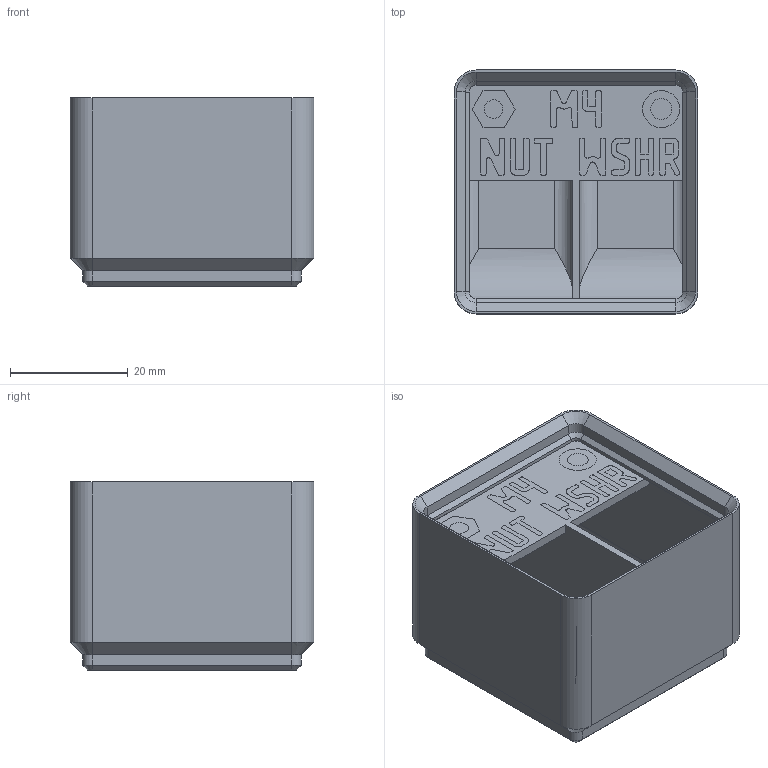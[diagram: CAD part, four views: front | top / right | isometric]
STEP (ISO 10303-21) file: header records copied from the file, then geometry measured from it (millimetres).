
FILE_DESCRIPTION(('Open CASCADE Model'),'2;1');
FILE_NAME('bin_M4_NUT-WSHR','2026-11-03T10:51:40',('Author'),( 'Open CASCADE'),'Open CASCADE STEP processor 8.0','build123d', 'Unknown');
FILE_SCHEMA(('AUTOMOTIVE_DESIGN { 1 0 10303 214 1 1 1 1 }'));
Length unit declared in the file: millimetre
Products named in the file (3): bin_M4_NUT-WSHR; M4_NUT-WSHR_body; M4_NUT-WSHR_label
Assembly tree (2 placements, depth 2):
  bin_M4_NUT-WSHR
    M4_NUT-WSHR_body
    M4_NUT-WSHR_label
Bounding box: 41.5 x 41.5 x 32 mm (x, y, z)
Volume: 21988.3 mm3; surface area: 14568.9 mm2
Topology: 12 solids, 12 shells, 1913 faces, 5558 edges, 3684 vertices
Faces by surface type: plane 1863, cylinder 30, cone 20
Full cylindrical faces by diameter (mm): 3.15 x2, 3.591 x2, 6.3 x2
Entity records: 134369 total; most frequent: CARTESIAN_POINT 23156, DIRECTION 20309, LINE 16322, VECTOR 16322, ORIENTED_EDGE 11116, PCURVE 11116, DEFINITIONAL_REPRESENTATION 11116, EDGE_CURVE 5558
